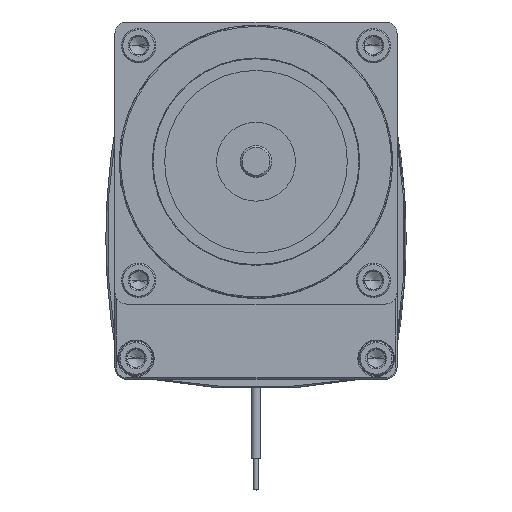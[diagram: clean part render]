
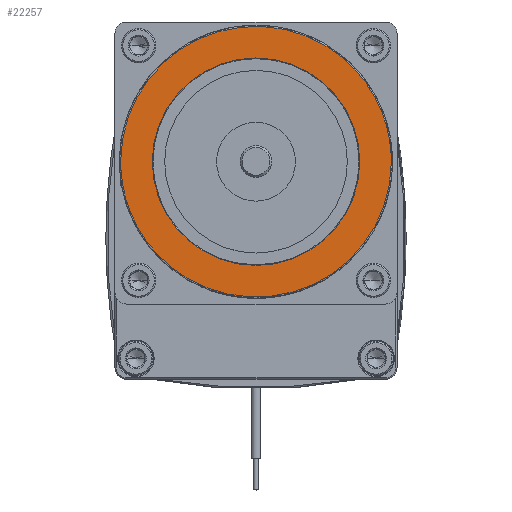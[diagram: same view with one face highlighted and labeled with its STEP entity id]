
A CAD part, top view. The second image highlights one B-rep face of the part: STEP entity #22257.
In plain terms, the highlighted planar face has unit normal (0, 0, 1).
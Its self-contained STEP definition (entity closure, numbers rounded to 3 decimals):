
#259 =( BOUNDED_CURVE ( )  B_SPLINE_CURVE ( 3, ( #45060, #45047, #45055, #45061 ),
 .UNSPECIFIED., .F., .F. ) 
 B_SPLINE_CURVE_WITH_KNOTS ( ( 4, 4 ),
 ( 0.5, 1. ),
 .UNSPECIFIED. ) 
 CURVE ( )  GEOMETRIC_REPRESENTATION_ITEM ( )  RATIONAL_B_SPLINE_CURVE ( ( 1., 0.333, 0.333, 1. ) ) 
 REPRESENTATION_ITEM ( '' )  );
#4430 = CARTESIAN_POINT ( 'NONE',  ( -2.718, 0., 0. ) ) ;
#4431 = CARTESIAN_POINT ( 'NONE',  ( -2.718, 5.436, 0. ) ) ;
#4436 = CARTESIAN_POINT ( 'NONE',  ( 2.718, 5.436, 0. ) ) ;
#4437 = CARTESIAN_POINT ( 'NONE',  ( 2.718, 0., 0. ) ) ;
#7365 = CIRCLE ( 'NONE', #30437, 2.083 ) ;
#9537 = CARTESIAN_POINT ( 'NONE',  ( 0., 0., 0. ) ) ;
#9538 = DIRECTION ( 'NONE',  ( 0., 0., -1. ) ) ;
#9540 = DIRECTION ( 'NONE',  ( 1., 0., 0. ) ) ;
#20778 = EDGE_LOOP ( 'NONE', ( #50896, #50897 ) ) ;
#22257 = ADVANCED_FACE ( 'NONE', ( #28631, #28628 ), #48276, .T. ) ;
#24274 = CARTESIAN_POINT ( 'NONE',  ( 2.718, 0., 0. ) ) ;
#24339 = CARTESIAN_POINT ( 'NONE',  ( -2.718, 0., 0. ) ) ;
#27809 = AXIS2_PLACEMENT_3D ( 'NONE', #48272, #48281, #48282 ) ;
#28628 = FACE_BOUND ( 'NONE', #20778, .T. ) ;
#28631 = FACE_OUTER_BOUND ( 'NONE', #37297, .T. ) ;
#30304 = AXIS2_PLACEMENT_3D ( 'NONE', #9537, #9538, #9540 ) ;
#30437 = AXIS2_PLACEMENT_3D ( 'NONE', #65543, #65544, #65545 ) ;
#37297 = EDGE_LOOP ( 'NONE', ( #50893, #50895 ) ) ;
#41449 =( BOUNDED_CURVE ( )  B_SPLINE_CURVE ( 3, ( #4430, #4431, #4436, #4437 ),
 .UNSPECIFIED., .F., .T. ) 
 B_SPLINE_CURVE_WITH_KNOTS ( ( 4, 4 ),
 ( 0., 0.5 ),
 .UNSPECIFIED. ) 
 CURVE ( )  GEOMETRIC_REPRESENTATION_ITEM ( )  RATIONAL_B_SPLINE_CURVE ( ( 1., 0.333, 0.333, 1. ) ) 
 REPRESENTATION_ITEM ( '' )  );
#43429 = VERTEX_POINT ( 'NONE', #52836 ) ;
#43489 = VERTEX_POINT ( 'NONE', #52896 ) ;
#45047 = CARTESIAN_POINT ( 'NONE',  ( 2.718, -5.436, 0. ) ) ;
#45055 = CARTESIAN_POINT ( 'NONE',  ( -2.718, -5.436, 0. ) ) ;
#45060 = CARTESIAN_POINT ( 'NONE',  ( 2.718, 0., 0. ) ) ;
#45061 = CARTESIAN_POINT ( 'NONE',  ( -2.718, 0., 0. ) ) ;
#48272 = CARTESIAN_POINT ( 'NONE',  ( -2.07, 0., 0. ) ) ;
#48276 = PLANE ( 'NONE',  #27809 ) ;
#48281 = DIRECTION ( 'NONE',  ( 0., 0., 1. ) ) ;
#48282 = DIRECTION ( 'NONE',  ( 1., 0., 0. ) ) ;
#50893 = ORIENTED_EDGE ( 'NONE', *, *, #60023, .F. ) ;
#50895 = ORIENTED_EDGE ( 'NONE', *, *, #51210, .F. ) ;
#50896 = ORIENTED_EDGE ( 'NONE', *, *, #51620, .T. ) ;
#50897 = ORIENTED_EDGE ( 'NONE', *, *, #51105, .T. ) ;
#51105 = EDGE_CURVE ( 'NONE', #43429, #43489, #63539, .T. ) ;
#51210 = EDGE_CURVE ( 'NONE', #62610, #63265, #259, .T. ) ;
#51620 = EDGE_CURVE ( 'NONE', #43489, #43429, #7365, .T. ) ;
#52836 = CARTESIAN_POINT ( 'NONE',  ( -2.083, 0., 0. ) ) ;
#52896 = CARTESIAN_POINT ( 'NONE',  ( 2.083, 0., 0. ) ) ;
#60023 = EDGE_CURVE ( 'NONE', #63265, #62610, #41449, .T. ) ;
#62610 = VERTEX_POINT ( 'NONE', #24274 ) ;
#63265 = VERTEX_POINT ( 'NONE', #24339 ) ;
#63539 = CIRCLE ( 'NONE', #30304, 2.083 ) ;
#65543 = CARTESIAN_POINT ( 'NONE',  ( 0., 0., 0. ) ) ;
#65544 = DIRECTION ( 'NONE',  ( 0., 0., -1. ) ) ;
#65545 = DIRECTION ( 'NONE',  ( 1., 0., 0. ) ) ;
